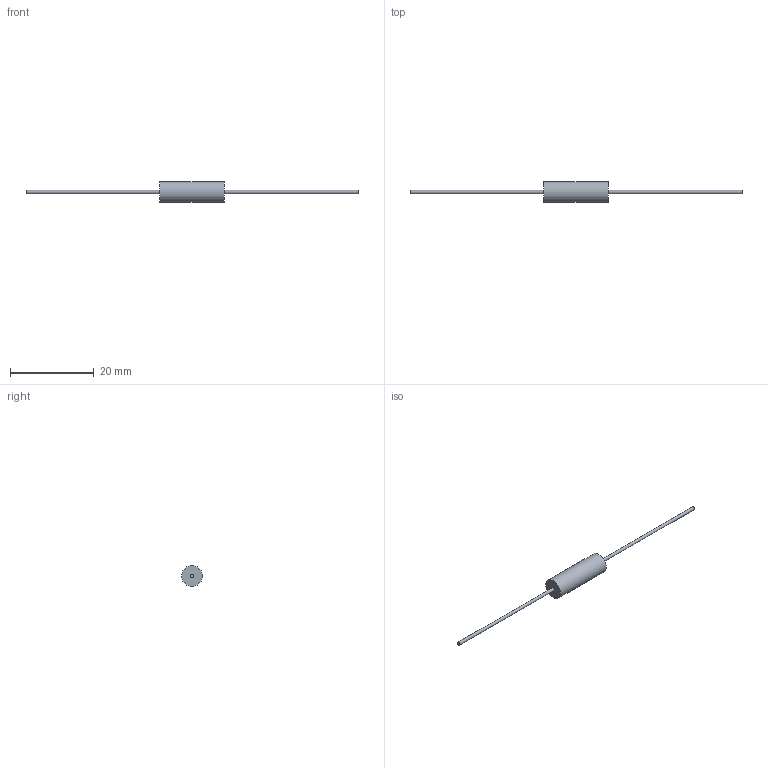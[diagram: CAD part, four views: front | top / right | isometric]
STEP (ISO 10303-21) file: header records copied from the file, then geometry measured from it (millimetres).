
FILE_DESCRIPTION(/* description */ (''),/* implementation_level */ '2;1');
FILE_NAME(/* name */ 'C:\Users\mulla\Documents\SEI Models\Inventor Files\MG_MGM\MGM3_stp.stp',/* time_stamp */ '2019-06-12T13:23:01-04:00',/* author */ ('mulla'),/* organization */ (''),/* preprocessor_version */ 'ST-DEVELOPER v16.1',/* originating_system */ 'Autodesk Inventor 2016',/* authorisation */ '');
FILE_SCHEMA (('AUTOMOTIVE_DESIGN { 1 0 10303 214 3 1 1 }'));
Length unit declared in the file: millimetre
Products named in the file (1): MGM3
Bounding box: 79.5 x 5 x 5 mm (x, y, z)
Volume: 334.9 mm3; surface area: 441.5 mm2
Topology: 3 solids, 3 shells, 9 faces, 9 edges, 6 vertices
Faces by surface type: plane 6, cylinder 3
Full cylindrical faces by diameter (mm): 0.78 x2, 5 x1
Entity records: 186 total; most frequent: DIRECTION 32, CARTESIAN_POINT 22, AXIS2_PLACEMENT_3D 16, EDGE_LOOP 12, ORIENTED_EDGE 12, FACE_OUTER_BOUND 9, ADVANCED_FACE 9, PLANE 6
